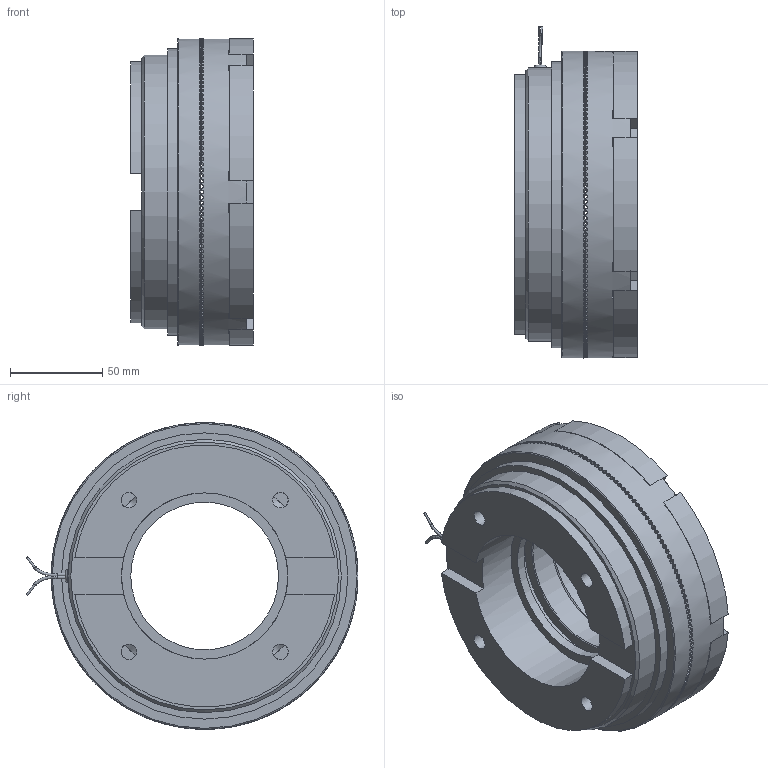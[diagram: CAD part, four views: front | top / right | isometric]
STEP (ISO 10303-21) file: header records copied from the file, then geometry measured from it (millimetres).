
FILE_DESCRIPTION(/* description */ (''),/* implementation_level */ '2;1');
FILE_NAME(/* name */ 'X:\INVENTOR\DISEGNI\07_Innesti_Elettmag_a_Dentini\07_09 EBLF_Z\07_09_167_01 EBLF167_Z\07_09_167_01 EBLF167_Z.stp',/* time_stamp */ '2023-02-13T11:10:24+01:00',/* author */ ('alessio'),/* organization */ (''),/* preprocessor_version */ 'ST-DEVELOPER v18.1',/* originating_system */ 'Autodesk Inventor 2021',/* authorisation */ '');
FILE_SCHEMA (('AUTOMOTIVE_DESIGN { 1 0 10303 214 3 1 1 }'));
Products named in the file (1): 07_09_167_01 EBLF167_Z
Bounding box: 66.5 x 179.72 x 166 mm (x, y, z)
Volume: 804964.1 mm3; surface area: 159265.7 mm2
Topology: 3 solids, 3 shells, 1735 faces, 5096 edges, 3372 vertices
Faces by surface type: plane 1578, cylinder 90, bspline 41, cone 22, torus 4
Full cylindrical faces by diameter (mm): 1.154 x2, 1.5 x1, 4.917 x3, 6 x1, 7.9 x3, 8.376 x4, 8.5 x3, 12 x3, 13 x3, 80 x3, 89 x1, 90 x1, 114 x2, 134 x2, 148 x1, 150 x1, 153 x1, 154 x1, 155 x1, 166 x2
Entity records: 65278 total; most frequent: CARTESIAN_POINT 14564, DIRECTION 11433, ORIENTED_EDGE 10194, EDGE_CURVE 5097, AXIS2_PLACEMENT_3D 4765, VERTEX_POINT 3373, ELLIPSE 2061, LINE 1903
